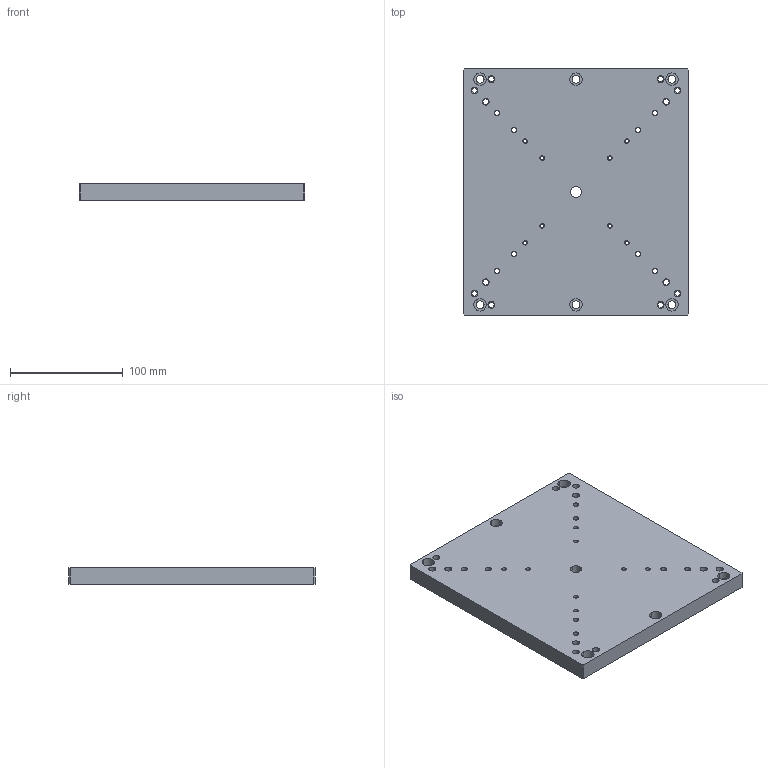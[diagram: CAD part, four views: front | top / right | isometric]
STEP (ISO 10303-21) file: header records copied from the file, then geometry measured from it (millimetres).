
FILE_DESCRIPTION( (''), '2;1');
FILE_NAME ('OTX200-K.stp','2020-07-21T17:30:08',(''),(''),'spGate 15.6.6','','');
FILE_SCHEMA (('AUTOMOTIVE_DESIGN'));
Length unit declared in the file: millimetre
Products named in the file (2): Assembly; OTX200-K-prt0
Assembly tree (1 placements, depth 2):
  Assembly
    OTX200-K-prt0
Bounding box: 200 x 218 x 15 mm (x, y, z)
Volume: 638744 mm3; surface area: 107569.2 mm2
Topology: 1 solids, 1 shells, 210 faces, 502 edges, 300 vertices
Faces by surface type: cylinder 138, bspline 56, plane 16
Entity records: 10368 total; most frequent: CARTESIAN_POINT 1714, ORIENTED_EDGE 1004, DIRECTION 908, COLOUR_RGB 713, PRESENTATION_STYLE_ASSIGNMENT 713, STYLED_ITEM 713, EDGE_CURVE 502, DRAUGHTING_PRE_DEFINED_CURVE_FONT 502
